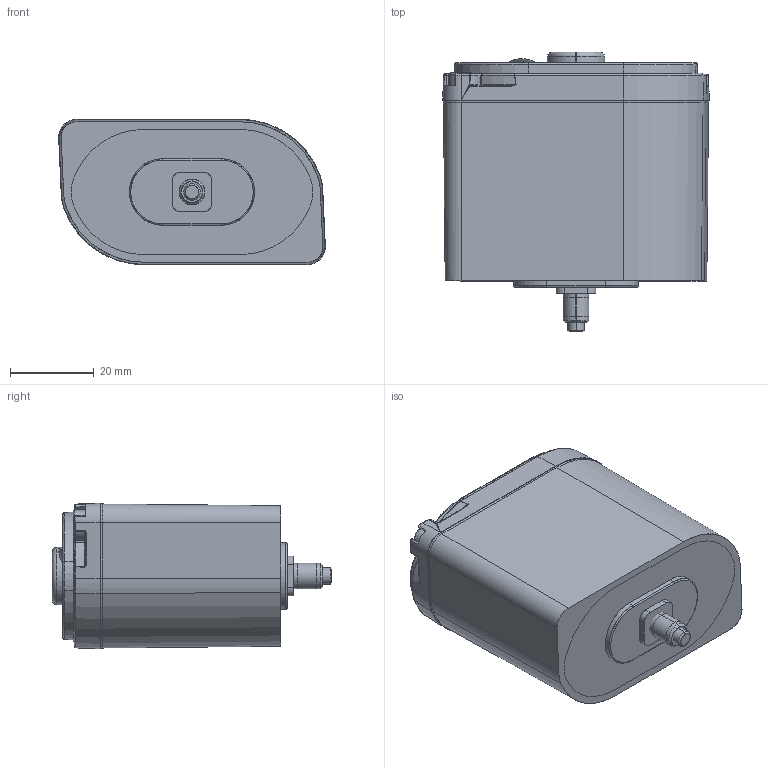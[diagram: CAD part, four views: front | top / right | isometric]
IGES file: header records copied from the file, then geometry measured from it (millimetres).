
Start section: SolidWorks IGES file using analytic representation for surfaces
Global section: file name: Q:\GROUPS\BR_SC_JGS_WAU_DESENVOLVIMENTO_PRODUTOS\Arquivos Fontes\Desenvolvimento Mecanico\Arquivos Site WEG\WEGSCAN\WEGSCAN 100\3D\IGS - WEGSCAN 100_3D.IGS; native system: SolidWorks 2018; preprocessor: SolidWorks 2018; author: mpossamai; date: 230411.081941; units: millimetre
Bounding box: 63.86 x 67 x 34.87 mm (x, y, z)
Surface area: 13991.4 mm2 (no closed solid volume)
Topology: 0 solids, 0 shells, 261 faces, 2353 edges, 2328 vertices
Faces by surface type: bspline 145, revolution 116
